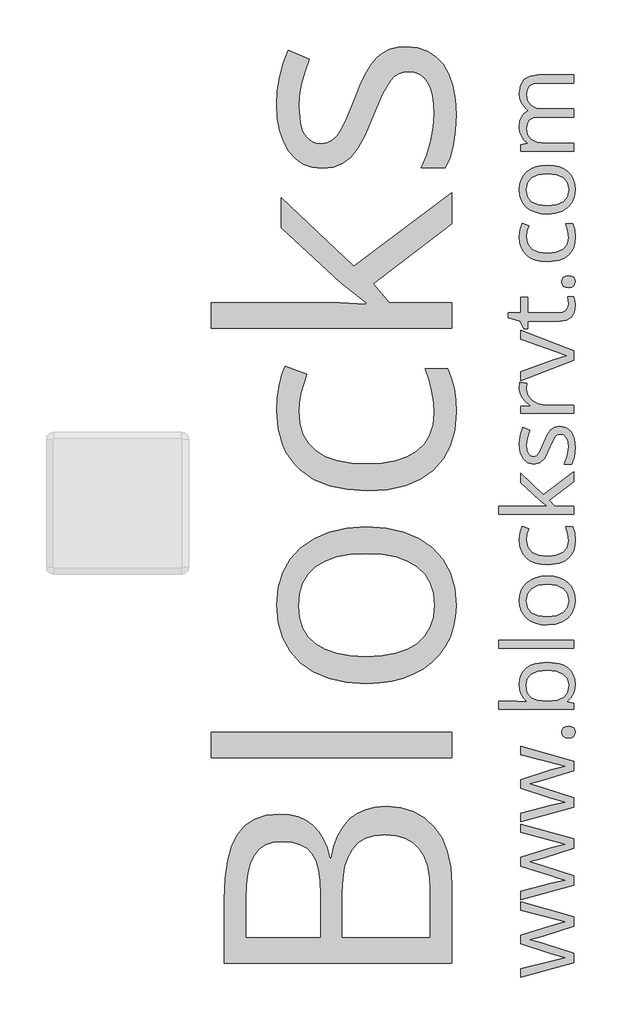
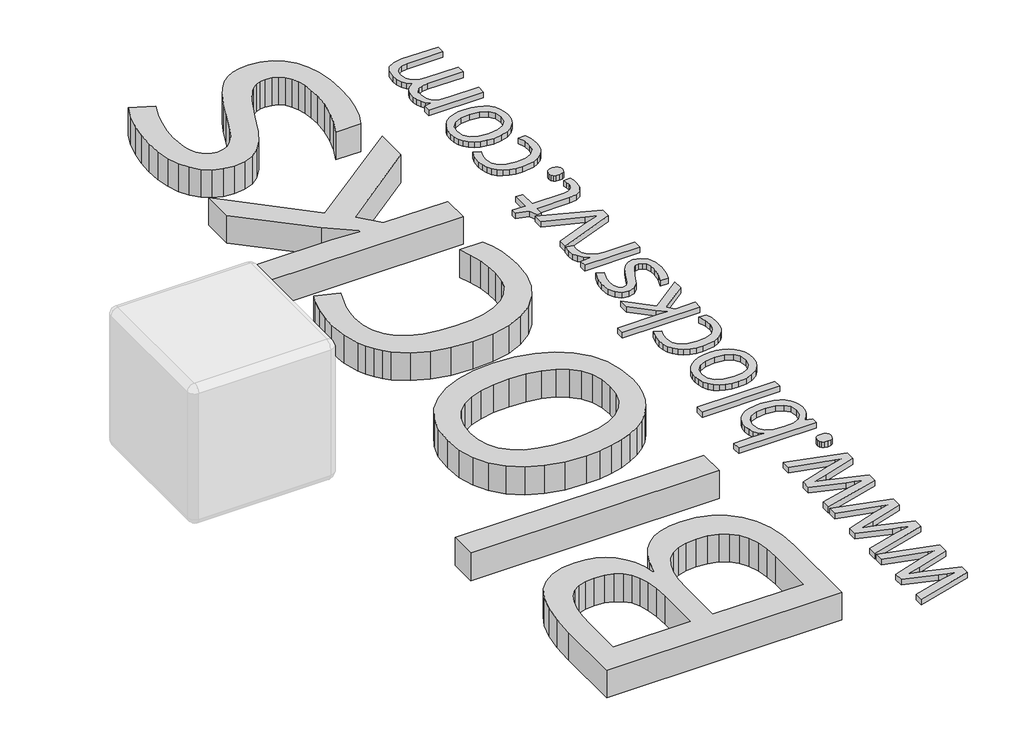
# One storey, part 7 of 7: 2 proxies.
"""IFC4 building model written with IfcOpenShell, lengths in millimetres."""

from ifc_helpers import new_model, si_unit, origin, origin_with_axes, place, context, project, spatial, polyline, outline, extrude, element, save

model = new_model("IFC4")

# Units and contexts
model_context = context("Model", 3, world=origin())
ifc_project = project(units=[si_unit("LENGTHUNIT", "METRE", prefix="MILLI")], contexts=[model_context])

# Site, building, storey
site = spatial("IfcSite", under=ifc_project)
building = spatial("IfcBuilding", under=site)
storey = spatial("IfcBuildingStorey", under=building, Name="PORTOBELLO - SHOWROOM", Elevation=0.0)

# Proxies
placement = place(None, origin())
element("IfcBuildingElementProxy", 1, Name="25mm OpenSans", ObjectType="25mm OpenSans", at=placement, inside=storey, context=model_context, shape_type="SweptSolid", body=[
    extrude(outline(polyline([(53164.5920641, 7173.3703802), (53054.7804207, 7138.8902738), (53009.0568013, 7126.672323), (53055.1552045, 7113.2550642), (53164.5920641, 7077.7255632), (53164.5920641, 7044.8195486), (52977.5000083, 6993.4741727), (52977.5000083, 7023.3069605), (53084.8380788, 7051.0409591), (53134.5344061, 7061.9846451), (53109.348937, 7069.4053636), (53084.8380788, 7076.7511254), (52977.5000083, 7111.2312319), (52977.5000083, 7142.1134142), (53084.9130355, 7175.7689963), (53134.2345791, 7188.8114714), (53115.2705205, 7193.9085306), (52977.5000083, 7229.6629018), (52977.5000083, 7259.1958626), (53164.5920641, 7207.1758759), (53164.5920641, 7173.3703802)])), origin_with_axes(), (0.0, 0.0, 1.0), 20.0),
    extrude(outline(polyline([(53164.5920641, 7446.8126157), (53054.7804207, 7412.3325092), (53009.0568013, 7400.1145584), (53055.1552045, 7386.6972996), (53164.5920641, 7351.1677987), (53164.5920641, 7318.261784), (52977.5000083, 7266.9164081), (52977.5000083, 7296.7491959), (53084.8380788, 7324.4831945), (53134.5344061, 7335.4268805), (53109.348937, 7342.8475991), (53084.8380788, 7350.1933609), (52977.5000083, 7384.6734673), (52977.5000083, 7415.5556496), (53084.9130355, 7449.2112318), (53134.2345791, 7462.2537068), (53115.2705205, 7467.350766), (52977.5000083, 7503.1051373), (52977.5000083, 7532.638098), (53164.5920641, 7480.6181113), (53164.5920641, 7446.8126157)])), origin_with_axes(), (0.0, 0.0, 1.0), 20.0),
    extrude(outline(polyline([(53164.5920641, 7720.2548511), (53054.7804207, 7685.7747446), (53009.0568013, 7673.5567939), (53055.1552045, 7660.1395351), (53164.5920641, 7624.6100341), (53164.5920641, 7591.7040195), (52977.5000083, 7540.3586436), (52977.5000083, 7570.1914313), (53084.8380788, 7597.92543), (53134.5344061, 7608.8691159), (53109.348937, 7616.2898345), (53084.8380788, 7623.6355963), (52977.5000083, 7658.1157027), (52977.5000083, 7688.997885), (53084.9130355, 7722.6534672), (53134.2345791, 7735.6959422), (53115.2705205, 7740.7930014), (52977.5000083, 7776.5473727), (52977.5000083, 7806.0803334), (53164.5920641, 7754.0603467), (53164.5920641, 7720.2548511)])), origin_with_axes(), (0.0, 0.0, 1.0), 20.0),
    extrude(outline(polyline([(53145.478092, 7835.2385104), (53135.0684729, 7836.540884), (53127.5259497, 7840.4480047), (53122.9442181, 7846.79122), (53121.4169743, 7855.401877), (53122.9442181, 7864.265513), (53127.5259497, 7870.9179249), (53135.0684729, 7875.0780247), (53145.478092, 7876.4647246), (53155.6815801, 7875.0499159), (53163.2053642, 7870.8054897), (53167.8433133, 7864.1249691), (53169.3892963, 7855.401877), (53163.8050182, 7840.972702), (53156.4311476, 7836.6720583), (53145.478092, 7835.2385104)])), origin_with_axes(), (0.0, 0.0, 1.0), 20.0),
    extrude(outline(polyline([(52972.7027761, 8023.604831), (52974.3026343, 8041.1892168), (52979.1022089, 8056.6888679), (52987.1014999, 8070.1037843), (52998.3005073, 8081.433966), (53012.422828, 8090.4358036), (53029.1920591, 8096.8656876), (53070.6712524, 8102.0095948), (53112.2909896, 8096.8188396), (53129.179683, 8090.3303957), (53143.4542597, 8081.2465742), (53154.8008382, 8069.8625173), (53162.9055371, 8056.4733672), (53167.7683565, 8041.0791241), (53169.3892963, 8023.6797877), (53167.6746606, 8006.036842), (53162.5307534, 7989.9867272), (53153.8264004, 7975.979184), (53141.4304274, 7964.4639528), (53141.4304274, 7962.3651637), (53164.5920641, 7956.3686234), (53164.5920641, 7936.0553433), (52900.7442931, 7936.0553433), (52900.7442931, 7964.388996), (52963.3331819, 7964.388996), (53001.1113855, 7963.0397745), (52988.6826189, 7975.5950306), (52979.8049284, 7989.1996813), (52974.4783142, 8005.2029481), (52972.7027761, 8023.604831)]), holes=[polyline([(52996.6889371, 8019.6321231), (53000.9239936, 7994.3623277), (53013.6291633, 7977.3190359), (53036.3597987, 7967.621506), (53070.6712524, 7964.388996), (53105.1232501, 7967.7152019), (53128.1256037, 7977.6938197), (53141.0837524, 7994.9994601), (53145.4031353, 8020.3067339), (53140.5590551, 8043.3840442), (53126.0268146, 8059.6965076), (53102.424807, 8069.3940376), (53070.3714254, 8072.6265475), (53037.9245209, 8069.3940376), (53014.9409065, 8059.6965076), (53001.2519294, 8043.2153915), (52996.6889371, 8019.6321231)])]), origin_with_axes(), (0.0, 0.0, 1.0), 20.0),
    extrude(outline(polyline([(53164.5920641, 8179.2900072), (53164.5920641, 8150.9563546), (52900.7442931, 8150.9563546), (52900.7442931, 8179.2900072), (53164.5920641, 8179.2900072)])), origin_with_axes(), (0.0, 0.0, 1.0), 20.0),
    extrude(outline(polyline([(53070.8961227, 8404.2352234), (53092.8233154, 8402.7946483), (53112.2066632, 8398.472923), (53129.0461663, 8391.2700475), (53143.3418246, 8381.1860218), (53154.7375934, 8368.5675209), (53162.8774284, 8353.7612198), (53167.7613293, 8336.7671184), (53169.3892963, 8317.5852168), (53166.4003958, 8293.8895132), (53157.4336942, 8273.023427), (53142.8827145, 8255.7927434), (53123.1409796, 8243.0032474), (53098.9112092, 8235.0765708), (53070.8961227, 8232.4343452), (53048.9782996, 8233.8632083), (53029.6230605, 8238.1497976), (53012.8304054, 8245.2941132), (52998.6003343, 8255.2961549), (52987.2701526, 8267.8373567), (52979.1771656, 8282.5991523), (52974.3213735, 8299.5815416), (52972.7027761, 8318.7845248), (52974.3588518, 8337.3808268), (52979.3270791, 8353.9673508), (52987.6074579, 8368.5440969), (52999.1999883, 8381.1110651), (53013.6174513, 8391.2278843), (53030.372628, 8398.4541838), (53049.4655185, 8402.7899635), (53070.8961227, 8404.2352234)]), holes=[polyline([(53070.6712524, 8261.8923492), (53102.8276995, 8265.4715342), (53126.2891632, 8276.209089), (53140.6246423, 8293.8801436), (53145.4031353, 8318.2598276), (53140.6433815, 8342.6582507), (53126.36412, 8360.3855228), (53102.9213954, 8371.1792953), (53070.6712524, 8374.7772194), (53038.7490452, 8371.1792953), (53015.5405605, 8360.3855228), (53001.4018429, 8342.5645548), (52996.6889371, 8317.8850438), (53001.3362558, 8293.5522078), (53015.2782118, 8276.0216972), (53038.4211094, 8265.4246862), (53070.6712524, 8261.8923492)])]), origin_with_axes(), (0.0, 0.0, 1.0), 20.0),
    extrude(outline(polyline([(53169.3892963, 8529.6378714), (53167.8034925, 8510.2943443), (53163.0460811, 8493.2651069), (53155.117062, 8478.5501593), (53144.0164353, 8466.1495015), (53130.0159193, 8456.3114276), (53113.3872321, 8449.284232), (53072.2453442, 8443.6624755), (53049.7981391, 8445.0889963), (53030.0540618, 8449.3685584), (53013.0131125, 8456.5011619), (52998.675291, 8466.4868069), (52987.3123157, 8479.1099926), (52979.1959048, 8494.1552184), (52974.3260583, 8511.6224842), (52972.7027761, 8531.5117902), (52975.4761759, 8558.75857), (52981.9974135, 8580.0837662), (53005.4588772, 8571.3138261), (52999.1999883, 8550.5882839), (52996.6889371, 8530.7622227), (53001.3784189, 8505.54396), (53015.4468645, 8487.5309153), (53038.8942739, 8476.7230885), (53071.720647, 8473.1204795), (53103.1837441, 8476.6340773), (53126.36412, 8487.1748707), (53140.6433815, 8504.6116854), (53145.4031353, 8528.8133471), (53142.8733449, 8552.7807689), (53135.2839736, 8577.3103664), (53159.9447454, 8577.3103664), (53167.0281586, 8555.9102134), (53169.3892963, 8529.6378714)])), origin_with_axes(), (0.0, 0.0, 1.0), 20.0),
    extrude(outline(polyline([(53070.7462092, 8648.8940656), (53042.862297, 8671.7558753), (52977.5000083, 8731.7212778), (52977.5000083, 8765.077033), (53057.2539936, 8689.8204528), (53164.5920641, 8770.3240057), (53164.5920641, 8736.218683), (53078.2418845, 8670.631524), (53096.2315052, 8649.6436331), (53164.5920641, 8649.6436331), (53164.5920641, 8621.6098075), (52900.7442931, 8621.6098075), (52900.7442931, 8649.6436331), (53041.7379457, 8649.6436331), (53070.7462092, 8648.8940656)])), origin_with_axes(), (0.0, 0.0, 1.0), 20.0),
    extrude(outline(polyline([(53114.1461692, 8930.5815439), (53137.6357417, 8925.6812461), (53155.0350781, 8910.9803529), (53165.8007417, 8887.4345629), (53169.3892963, 8855.9995745), (53166.4285045, 8822.7000369), (53157.5461293, 8797.6082638), (53131.0114387, 8797.6082638), (53141.5428625, 8826.7664408), (53145.4031353, 8856.749142), (53143.6229124, 8876.5658337), (53138.2822437, 8891.1917701), (53129.2874334, 8900.2146893), (53116.5447853, 8903.222329), (53106.256971, 8900.8330825), (53097.5807268, 8893.665343), (53078.991452, 8856.449315), (53061.7513988, 8819.0458952), (53045.0735212, 8802.5179312), (53022.6989304, 8797.0835666), (53001.9733882, 8801.7683636), (52986.1200349, 8815.8227548), (52976.0570908, 8838.0474321), (52972.7027761, 8867.2430875), (52975.8134813, 8897.2820063), (52985.1455971, 8926.6837927), (53008.3072338, 8916.4896743), (52999.5935113, 8889.4302864), (52996.6889371, 8865.0693416), (52998.2911377, 8847.2483736), (53003.0977395, 8834.4120296), (53010.7339587, 8826.6540057), (53020.8250116, 8824.0679977), (53033.8300082, 8827.9282705), (53044.0241267, 8840.4085699), (53058.0785179, 8873.464498), (53070.4089038, 8901.5451716), (53082.8142464, 8918.7758553), (53096.8686376, 8927.6301217), (53114.1461692, 8930.5815439)])), origin_with_axes(), (0.0, 0.0, 1.0), 20.0),
    extrude(outline(polyline([(52972.7027761, 9063.0301267), (52974.5766949, 9085.6670661), (52999.2374667, 9081.6943582), (52996.6889371, 9061.0062943), (53001.3831037, 9039.6717285), (53015.4656037, 9021.6914773), (53036.5565601, 9009.464157), (53062.2760961, 9005.3883835), (53164.5920641, 9005.3883835), (53164.5920641, 8977.0547308), (52977.5000083, 8977.0547308), (52977.5000083, 9000.4412378), (53011.0806337, 9003.6643782), (52994.7588007, 9016.6506357), (52982.6720242, 9030.4239391), (52975.1950881, 9045.9962045), (52972.7027761, 9063.0301267)])), origin_with_axes(), (0.0, 0.0, 1.0), 20.0),
    extrude(outline(polyline([(53164.5920641, 9162.6476516), (52977.5000083, 9090.6891686), (52977.5000083, 9121.4963941), (53088.4360029, 9162.3478246), (53138.9568545, 9178.5384832), (53101.4784779, 9191.9557421), (52977.5000083, 9237.3795344), (52977.5000083, 9268.18676), (53164.5920641, 9196.228277), (53164.5920641, 9162.6476516)])), origin_with_axes(), (0.0, 0.0, 1.0), 20.0),
    extrude(outline(polyline([(53145.4031353, 9359.5590421), (53144.278784, 9374.2505657), (53141.9551246, 9385.4940786), (53164.1423236, 9385.4940786), (53167.8901612, 9371.7769928), (53169.3892963, 9355.5113774), (53165.8288505, 9331.5064772), (53155.1475132, 9314.3601199), (53137.3452843, 9304.0723055), (53112.4221639, 9300.6430341), (53001.4861693, 9300.6430341), (53001.4861693, 9273.5086895), (52987.4692564, 9273.5086895), (52975.3262624, 9300.4931206), (52934.3249185, 9312.5611578), (52934.3249185, 9329.0516435), (52977.5000083, 9329.0516435), (52977.5000083, 9384.1448571), (53001.4861693, 9384.1448571), (53001.4861693, 9329.0516435), (53110.6981586, 9329.0516435), (53125.5302261, 9331.0848455), (53136.4458033, 9337.1844512), (53143.1638023, 9346.8445028), (53145.4031353, 9359.5590421)])), origin_with_axes(), (0.0, 0.0, 1.0), 20.0),
    extrude(outline(polyline([(53145.478092, 9418.3251365), (53135.0684729, 9419.6275101), (53127.5259497, 9423.5346308), (53122.9442181, 9429.8778461), (53121.4169743, 9438.4885031), (53122.9442181, 9447.3521392), (53127.5259497, 9454.004551), (53135.0684729, 9458.1646508), (53145.478092, 9459.5513507), (53155.6815801, 9458.136542), (53163.2053642, 9453.8921159), (53167.8433133, 9447.2115952), (53169.3892963, 9438.4885031), (53163.8050182, 9424.0593281), (53156.4311476, 9419.7586844), (53145.478092, 9418.3251365)])), origin_with_axes(), (0.0, 0.0, 1.0), 20.0),
    extrude(outline(polyline([(53169.3892963, 9594.6234199), (53167.8034925, 9575.2798928), (53163.0460811, 9558.2506554), (53155.117062, 9543.5357078), (53144.0164353, 9531.13505), (53130.0159193, 9521.2969761), (53113.3872321, 9514.2697805), (53072.2453442, 9508.648024), (53049.7981391, 9510.0745447), (53030.0540618, 9514.3541069), (53013.0131125, 9521.4867104), (52998.675291, 9531.4723554), (52987.3123157, 9544.0955411), (52979.1959048, 9559.1407669), (52974.3260583, 9576.6080327), (52972.7027761, 9596.4973387), (52975.4761759, 9623.7441185), (52981.9974135, 9645.0693147), (53005.4588772, 9636.2993746), (52999.1999883, 9615.5738324), (52996.6889371, 9595.7477712), (53001.3784189, 9570.5295085), (53015.4468645, 9552.5164638), (53038.8942739, 9541.708637), (53071.720647, 9538.106028), (53103.1837441, 9541.6196258), (53126.36412, 9552.1604192), (53140.6433815, 9569.5972339), (53145.4031353, 9593.7988956), (53142.8733449, 9617.7663174), (53135.2839736, 9642.2959149), (53159.9447454, 9642.2959149), (53167.0281586, 9620.8957618), (53169.3892963, 9594.6234199)])), origin_with_axes(), (0.0, 0.0, 1.0), 20.0),
    extrude(outline(polyline([(53070.8961227, 9848.2021157), (53092.8233154, 9846.7615406), (53112.2066632, 9842.4398153), (53129.0461663, 9835.2369398), (53143.3418246, 9825.1529141), (53154.7375934, 9812.5344132), (53162.8774284, 9797.7281121), (53167.7613293, 9780.7340107), (53169.3892963, 9761.5521091), (53166.4003958, 9737.8564055), (53157.4336942, 9716.9903194), (53142.8827145, 9699.7596357), (53123.1409796, 9686.9701397), (53098.9112092, 9679.0434631), (53070.8961227, 9676.4012375), (53048.9782996, 9677.8301006), (53029.6230605, 9682.11669), (53012.8304054, 9689.2610055), (52998.6003343, 9699.2630472), (52987.2701526, 9711.804249), (52979.1771656, 9726.5660446), (52974.3213735, 9743.548434), (52972.7027761, 9762.7514171), (52974.3588518, 9781.3477191), (52979.3270791, 9797.9342431), (52987.6074579, 9812.5109892), (52999.1999883, 9825.0779574), (53013.6174513, 9835.1947766), (53030.372628, 9842.4210761), (53049.4655185, 9846.7568558), (53070.8961227, 9848.2021157)]), holes=[polyline([(53070.6712524, 9705.8592415), (53102.8276995, 9709.4384265), (53126.2891632, 9720.1759814), (53140.6246423, 9737.8470359), (53145.4031353, 9762.2267199), (53140.6433815, 9786.625143), (53126.36412, 9804.3524151), (53102.9213954, 9815.1461876), (53070.6712524, 9818.7441117), (53038.7490452, 9815.1461876), (53015.5405605, 9804.3524151), (53001.4018429, 9786.5314471), (52996.6889371, 9761.8519361), (53001.3362558, 9737.5191001), (53015.2782118, 9719.9885895), (53038.4211094, 9709.3915785), (53070.6712524, 9705.8592415)])]), origin_with_axes(), (0.0, 0.0, 1.0), 20.0),
    extrude(outline(polyline([(53164.5920641, 10137.2353558), (53041.8129025, 10137.2353558), (53022.0711676, 10134.8367397), (53007.9699284, 10127.6408914), (52999.5091849, 10115.3854622), (52996.6889371, 10097.8081036), (53000.5211011, 10074.7401629), (53012.0175931, 10058.6057218), (53031.4782401, 10049.1049533), (53059.2028692, 10045.9380305), (53164.5920641, 10045.9380305), (53164.5920641, 10017.529421), (53041.8129025, 10017.529421), (53022.0711676, 10015.1308049), (53007.9699284, 10007.9349566), (52999.5091849, 9995.6420491), (52996.6889371, 9977.9522554), (53000.7178626, 9954.7718795), (53012.804639, 9938.7498735), (53034.0548785, 9929.4177577), (53065.5741932, 9926.3070525), (53164.5920641, 9926.3070525), (53164.5920641, 9897.9733998), (52977.5000083, 9897.9733998), (52977.5000083, 9921.0600798), (53001.4861693, 9925.6324417), (52989.4087624, 9936.7166716), (52980.3108865, 9949.7310378), (52974.6048037, 9965.2564553), (52972.7027761, 9982.5246173), (52974.6703908, 10002.6223968), (52980.5732351, 10018.916121), (52990.411309, 10031.40579), (53004.1846124, 10040.0914037), (52991.1608765, 10051.7190701), (52981.1728892, 10065.7640917), (52974.8203043, 10082.8073834), (52972.7027761, 10102.0806386), (52976.8066583, 10129.936442), (52989.118305, 10149.7906119), (53010.4622405, 10161.6806269), (53041.6629889, 10165.6439652), (53164.5920641, 10165.6439652), (53164.5920641, 10137.2353558)])), origin_with_axes(), (0.0, 0.0, 1.0), 20.0),
])
element("IfcBuildingElementProxy", 2, Name="80mm OpenSans", ObjectType="80mm OpenSans", at=placement, inside=storey, context=model_context, shape_type="SweptSolid", body=[
    extrude(outline(polyline([(51935.2086571, 7042.5162261), (51935.2086571, 7267.4993467), (51938.1456363, 7341.3294446), (51946.9565738, 7404.1777943), (51961.6414696, 7456.0443958), (51982.2003238, 7496.9292491), (52009.0988466, 7527.8989809), (52042.8027483, 7550.0202178), (52083.3120288, 7563.29296), (52130.6266881, 7567.7172074), (52164.285521, 7565.2459385), (52194.8346113, 7557.8321318), (52222.2739589, 7545.4757872), (52246.6035638, 7528.1769047), (52267.3877617, 7506.1458052), (52284.1908881, 7479.5928094), (52297.0129429, 7448.5179172), (52305.8539263, 7412.9211287), (52311.1419911, 7412.9211287), (52321.0571126, 7455.4547465), (52335.058466, 7492.3172153), (52353.1460512, 7523.508535), (52375.3198684, 7549.0287057), (52401.5799175, 7568.8777273), (52431.9261984, 7583.0555999), (52466.3587113, 7591.5623235), (52504.877456, 7594.397898), (52556.1130952, 7589.8835132), (52601.4146845, 7576.3403586), (52640.7822237, 7553.7684342), (52674.2157129, 7522.1677402), (52700.8738691, 7482.4696969), (52719.9154093, 7435.6057249), (52731.3403334, 7381.5758242), (52735.1486414, 7320.3799947), (52735.1486414, 7042.5162261), (51935.2086571, 7042.5162261)]), holes=[polyline([(52273.6448043, 7135.5380933), (52273.6448043, 7287.449773), (52271.7143602, 7332.9316372), (52265.9230279, 7371.5480308), (52256.2708073, 7403.298954), (52242.7576985, 7428.1844067), (52224.6776247, 7446.9555344), (52201.324509, 7460.3634828), (52172.6983514, 7468.4082519), (52138.7991519, 7471.0898415), (52107.596565, 7468.1002822), (52081.0510806, 7459.1316041), (52059.1626988, 7444.1838073), (52041.9314194, 7423.2568918), (52028.8915324, 7395.8250556), (52019.5773273, 7361.3624969), (52013.9888043, 7319.8692157), (52012.1259633, 7271.345212), (52012.1259633, 7135.5380933), (52273.6448043, 7135.5380933)]), polyline([(52350.5621105, 7135.5380933), (52658.2313352, 7135.5380933), (52658.2313352, 7301.1506682), (52655.820158, 7346.2569596), (52648.5866261, 7385.4292009), (52636.5307398, 7418.6673923), (52619.6524988, 7445.9715337), (52597.6514452, 7467.2665106), (52570.2271205, 7482.4772084), (52537.3795248, 7491.603627), (52499.1086581, 7494.6457666), (52463.4142207, 7491.5360239), (52432.7674815, 7482.206796), (52407.1684405, 7466.6580827), (52386.6170978, 7444.8898841), (52370.8430408, 7416.782017), (52359.5758573, 7382.2142979), (52352.8155472, 7341.186727), (52350.5621105, 7293.6993041), (52350.5621105, 7135.5380933)])]), origin_with_axes(), (0.0, 0.0, 1.0), 100.0),
    extrude(outline(polyline([(52735.1486414, 7856.1571056), (52735.1486414, 7765.2985377), (51889.0582734, 7765.2985377), (51889.0582734, 7856.1571056), (52735.1486414, 7856.1571056)])), origin_with_axes(), (0.0, 0.0, 1.0), 100.0),
    extrude(outline(polyline([(52434.6904141, 8577.4972177), (52505.0051508, 8572.8776725), (52567.1624465, 8559.0190367), (52621.1623014, 8535.9213105), (52667.0047155, 8503.5844938), (52703.5479474, 8463.120282), (52729.6502559, 8415.6403707), (52745.311641, 8361.1447597), (52750.5321027, 8299.6334491), (52748.1359483, 8260.5062765), (52740.9474852, 8223.6475634), (52728.9667134, 8189.05731), (52712.1936329, 8156.7355162), (52690.9437247, 8127.3281672), (52665.5324702, 8101.4812482), (52635.9598691, 8079.1947592), (52602.2259217, 8060.4687002), (52564.8939869, 8045.6410867), (52524.5274241, 8035.0499342), (52481.1262332, 8028.6952427), (52434.6904141, 8026.5770122), (52364.4057233, 8031.1590001), (52302.338565, 8044.904964), (52248.4889392, 8067.8149038), (52202.856846, 8099.8888196), (52166.5239348, 8140.1051533), (52140.5718554, 8187.442347), (52125.0006078, 8241.9004007), (52119.8101919, 8303.4793144), (52125.1207911, 8363.1127611), (52141.0525886, 8416.3013788), (52167.6055844, 8463.0451675), (52204.7797786, 8503.3441272), (52251.0127883, 8535.7861043), (52304.7422308, 8558.9589451), (52365.9681061, 8572.8626495), (52434.6904141, 8577.4972177)]), holes=[polyline([(52433.9693144, 8121.0410788), (52489.0132616, 8123.9104549), (52537.086578, 8132.5185831), (52578.1892635, 8146.8654634), (52612.3213181, 8166.9510959), (52639.1372149, 8192.5952056), (52658.2914269, 8223.6175176), (52669.7839541, 8260.0180318), (52673.6147965, 8301.7967483), (52669.798977, 8343.5904878), (52658.3515185, 8380.0360707), (52639.2724211, 8411.1334973), (52612.5616847, 8436.8827673), (52578.5047446, 8457.0735602), (52537.3870362, 8471.4955551), (52489.2085595, 8480.1487521), (52433.9693144, 8483.033151), (52379.2934285, 8480.1487521), (52331.6031963, 8471.4955551), (52290.898618, 8457.0735602), (52257.1796934, 8436.8827673), (52230.731858, 8411.0583827), (52211.840547, 8379.7356125), (52200.5057603, 8342.9144568), (52196.7274981, 8300.5949154), (52200.4531801, 8258.8537562), (52211.6302262, 8222.5659138), (52230.2586363, 8191.7313882), (52256.3384104, 8166.3501795), (52289.794434, 8146.5274479), (52330.5515926, 8132.368354), (52378.609886, 8123.8728976), (52433.9693144, 8121.0410788)])]), origin_with_axes(), (0.0, 0.0, 1.0), 100.0),
    extrude(outline(polyline([(52750.5321027, 8979.6305091), (52745.4468472, 8917.6009081), (52730.1910807, 8862.9926253), (52704.7648032, 8815.8056607), (52669.1680147, 8776.0400143), (52624.2720441, 8744.4919004), (52570.9482202, 8721.9575334), (52509.196543, 8708.4369132), (52439.0170126, 8703.9300397), (52367.0347328, 8708.5045163), (52303.7206729, 8722.2279458), (52249.0748328, 8745.1003283), (52203.0972125, 8777.1216639), (52183.5768171, 8796.3904256), (52166.659141, 8817.6008986), (52152.3441844, 8840.7530829), (52140.6319471, 8865.8469784), (52125.0156307, 8921.8599035), (52119.8101919, 8985.6396737), (52122.0335828, 9029.3563457), (52128.7037555, 9073.0129261), (52138.3785104, 9111.9222666), (52149.6156481, 9141.3972187), (52224.8503882, 9113.2743286), (52204.7797786, 9046.8129687), (52198.7405682, 9012.9513265), (52196.7274981, 8983.2360078), (52200.4869817, 8939.9136872), (52211.7654324, 8902.367676), (52230.5628502, 8870.5979742), (52256.8792352, 8844.6045818), (52290.7145873, 8824.3874988), (52332.0689066, 8809.9467252), (52380.942193, 8801.2822611), (52437.3344465, 8798.3941064), (52491.1014463, 8801.2109023), (52538.2283193, 8809.6612899), (52578.7150654, 8823.7452693), (52612.5616847, 8843.4628405), (52639.2724211, 8868.708843), (52658.3515185, 8899.3781166), (52669.798977, 8935.4706612), (52673.6147965, 8976.9864767), (52671.5867034, 9015.1897403), (52665.5024243, 9053.8436912), (52655.3619592, 9092.9483295), (52641.1653079, 9132.5036552), (52720.2459133, 9132.5036552), (52733.4961212, 9100.1443041), (52742.9605553, 9063.878996), (52748.6392158, 9023.7077311), (52750.5321027, 8979.6305091)])), origin_with_axes(), (0.0, 0.0, 1.0), 100.0),
    extrude(outline(polyline([(52434.209681, 9364.21704), (52344.7933125, 9435.3655483), (52135.1936532, 9627.6588137), (52135.1936532, 9734.6219426), (52390.9436962, 9493.2938945), (52735.1486414, 9751.4476034), (52735.1486414, 9642.0808086), (52458.2463392, 9431.7600495), (52515.9343188, 9364.4574066), (52735.1486414, 9364.4574066), (52735.1486414, 9274.560305), (51889.0582734, 9274.560305), (51889.0582734, 9364.4574066), (52341.1878138, 9364.4574066), (52434.209681, 9359.8904416), (52434.209681, 9364.21704)])), origin_with_axes(), (0.0, 0.0, 1.0), 100.0),
    extrude(outline(polyline([(52573.3819318, 10265.3513553), (52613.4855937, 10261.422864), (52648.7068094, 10249.63739), (52679.0455789, 10229.9949334), (52704.5019022, 10202.4954942), (52724.6401149, 10167.9052408), (52739.0245526, 10126.9903417), (52747.6552151, 10079.7507969), (52750.5321027, 10026.1866064), (52748.1584827, 9969.5051618), (52741.0376227, 9919.4037524), (52729.1695227, 9875.8823782), (52712.5541827, 9838.9410392), (52627.4644128, 9838.9410392), (52646.6036018, 9884.0698649), (52661.2359175, 9932.4436395), (52670.5200767, 9981.4784222), (52673.6147965, 10028.5902722), (52672.1876199, 10062.444403), (52667.9060902, 10092.1371873), (52660.7702073, 10117.6686252), (52650.7799712, 10139.0387166), (52637.8602674, 10155.9169575), (52621.9359814, 10167.9728439), (52603.0071131, 10175.2063757), (52581.0736625, 10177.6175529), (52563.9325206, 10175.7021318), (52548.0833491, 10169.9558682), (52533.526148, 10160.3787622), (52520.2609173, 10146.9708138), (52492.7389436, 10101.8119422), (52460.650005, 10027.6288059), (52430.9647321, 9955.4587397), (52405.3656911, 9907.6858816), (52380.2173375, 9876.6485467), (52351.8841267, 9854.6850503), (52318.9839508, 9841.6151174), (52280.134702, 9837.2584731), (52244.9510436, 9841.0142009), (52213.6733421, 9852.2813844), (52186.3015976, 9871.0600236), (52162.8358101, 9897.3501185), (52144.0121021, 9930.1902028), (52130.5665965, 9968.61881), (52122.4992931, 10012.6359403), (52119.8101919, 10062.2415937), (52122.3039952, 10110.660437), (52129.7854051, 10158.5685013), (52142.2544215, 10205.9657867), (52159.7110445, 10252.8522931), (52233.9843183, 10220.1624379), (52217.6844595, 10175.6946203), (52206.0417032, 10133.3901019), (52199.0560494, 10093.2488827), (52196.7274981, 10055.2709628), (52201.8653338, 9998.123808), (52208.2876284, 9975.5443722), (52217.2788409, 9956.9610308), (52228.5385129, 9942.4488985), (52241.7661864, 9932.0830896), (52256.9618612, 9925.8636043), (52274.1255375, 9923.7904425), (52296.8101336, 9926.8851623), (52315.8291394, 9936.1693215), (52332.5947085, 9952.36402), (52348.5189945, 9976.1903574), (52367.5380003, 10016.5118515), (52393.5877286, 10082.19202), (52413.3278342, 10131.5648182), (52433.1280313, 10172.2393507), (52452.9883202, 10204.2156175), (52472.9087006, 10227.4936187), (52494.1510973, 10244.0563785), (52517.9774347, 10255.8869212), (52544.3877129, 10262.9852468), (52573.3819318, 10265.3513553)])), origin_with_axes(), (0.0, 0.0, 1.0), 100.0),
])

save(model, "model.ifc")
